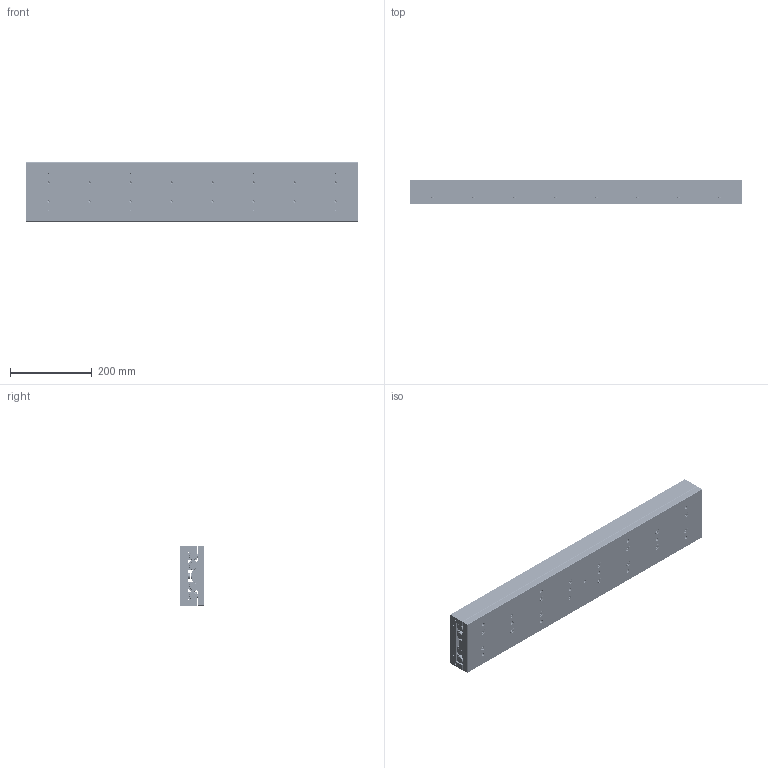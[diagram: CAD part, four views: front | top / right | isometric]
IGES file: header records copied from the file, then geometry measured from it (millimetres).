
Start section: SolidWorks IGES file using analytic representation for surfaces
Global section: file name: C:\Documents and Settings\IanO.IANOHOME\My Documents\Wix and Auto CAD Work\CAD Models\Parametric Models\Auto Models\L1020\L1020_IGES\L1020.145-810.igs; native system: SolidWorks 2009; preprocessor: SolidWorks 2009; author: IanO; date: 110922.163357; units: millimetre
Bounding box: 810 x 60 x 145 mm (x, y, z)
Surface area: 1089678.3 mm2 (no closed solid volume)
Topology: 0 solids, 0 shells, 2752 faces, 41328 edges, 41248 vertices
Faces by surface type: bspline 1728, revolution 1024
